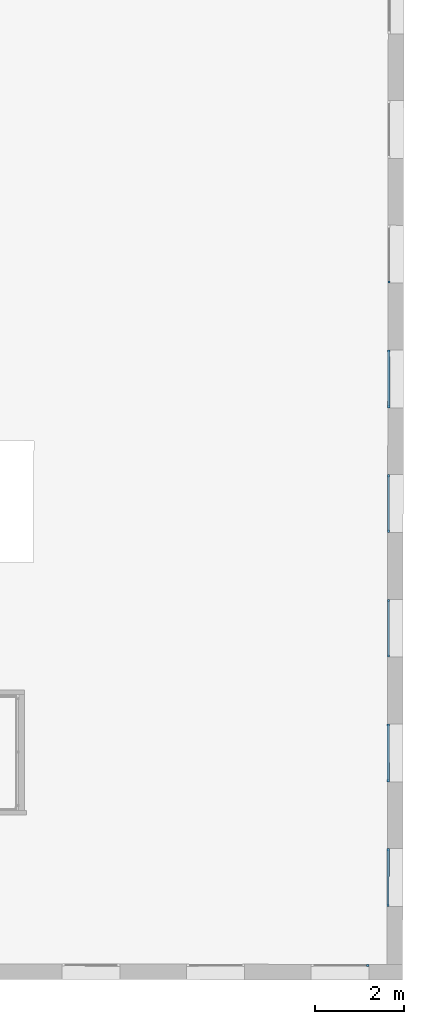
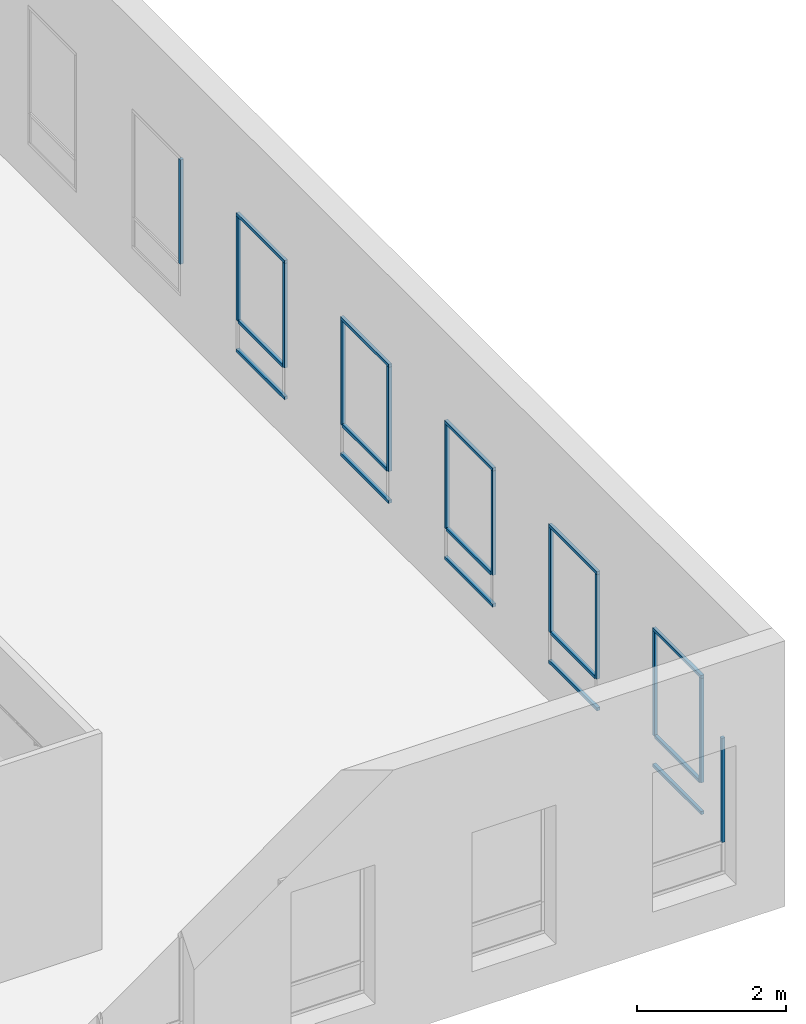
# One storey, part 9 of 35: 27 members, 7 elements without a shape of their own.
"""IFC2X3 building model written with IfcOpenShell, lengths in metres."""

from ifc_helpers import new_model, entity, si_unit, converted_unit, derived_unit, direction, frame, frame_2d, origin, origin_2d_with_axis, place, context, subcontext, project, spatial, rectangle, extrude, source, transform, mapped, material, type_object, type_shapes, element, aggregate, save


model = new_model("IFC2X3")

# Units and contexts
model_context = context("Model", 3, precision=1e-05, world=origin(), true_north=direction((6.123233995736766e-17, 1.0)))
body_context = subcontext(model_context, "Body", "Model", "MODEL_VIEW")
ifc_project = project(units=[si_unit("LENGTHUNIT", "METRE"), si_unit("AREAUNIT", "SQUARE_METRE"), converted_unit("PLANEANGLEUNIT", "DEGREE", entity("IfcPlaneAngleMeasure", 0.017453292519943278), si_unit("PLANEANGLEUNIT", "RADIAN"), dimensions=[0, 0, 0, 0, 0, 0, 0]), derived_unit("THERMALTRANSMITTANCEUNIT", [(si_unit("MASSUNIT", "GRAM", prefix="KILO"), 1), (si_unit("THERMODYNAMICTEMPERATUREUNIT", "KELVIN"), -1), (si_unit("TIMEUNIT", "SECOND"), -3)])], contexts=[model_context])

# Site, building, storey
site_placement = place(None, frame((1253.6752467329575, 2072.143113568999, 91.49999999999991), z_axis=(0.0, 0.0, 1.0), x_axis=(0.7237211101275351, 0.6900925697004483, 0.0)))
site = spatial("IfcSite", under=ifc_project, at=site_placement, Name="Surface", CompositionType="ELEMENT")
building_placement = place(site_placement, origin())
building = spatial("IfcBuilding", under=site, at=building_placement, CompositionType="ELEMENT")
storey_placement = place(building_placement, frame((0.0, 0.0, 3.549999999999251)))
storey = spatial("IfcBuildingStorey", under=building, at=storey_placement, Name="1-R+1", CompositionType="ELEMENT", Elevation=3.549999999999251)

# Curtain wall, member
curtain_wall_type = type_object("IfcCurtainWallType", Name="Mur-rideau:Menuiserie Ext 1F+1OB VERTIC", PredefinedType="NOTDEFINED")
curtain_wall_1_placement = place(storey_placement, frame((0.0, 0.0, -3.549999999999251)))
curtain_wall_1 = element("IfcCurtainWall", 1, at=curtain_wall_1_placement, inside=storey, type_object=curtain_wall_type, Name="Mur-rideau:Menuiserie Ext 1F+1OB VERTIC", ObjectType="Mur-rideau:Menuiserie Ext 1F+1OB VERTIC")
ifc_material = material(Name="OMD_Aluminium Men Ext")
member_type_1 = type_object("IfcMemberType", Name="Meneau rectangulaire:50x50", PredefinedType="MULLION", material=ifc_material)
shared_shape_1 = source(origin(), body_context, "Body", "SweptSolid", [
    extrude(rectangle(XDim=0.05, YDim=0.049999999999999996, at=origin_2d_with_axis()), frame((-0.025, 0.0, -1.2996959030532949), z_axis=(0.0, 0.0, 1.0), x_axis=(-1.0, 0.0, 0.0)), (0.0, 0.0, 1.0), 1.2996959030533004),
])
type_shapes(member_type_1, [shared_shape_1])
member_1_placement = place(curtain_wall_1_placement, frame((188.84198091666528, -19.273710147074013, 6.4499999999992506), z_axis=(0.6909838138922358, 0.7228702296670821, 0.0), x_axis=(0.0, 0.0, 1.0)))
member_1 = element("IfcMember", 2, at=member_1_placement, type_object=member_type_1, material=ifc_material, Name="Meneau rectangulaire:50x50", ObjectType="Meneau rectangulaire:50x50", context=body_context, shape_type="MappedRepresentation", body=[
    mapped(shared_shape_1, transform((0.0, 0.0, 0.0), scale=1.0)),
])

curtain_wall_2_placement = place(storey_placement, frame((0.0, 0.0, -3.549999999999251)))
curtain_wall_2 = element("IfcCurtainWall", 3, at=curtain_wall_2_placement, inside=storey, type_object=curtain_wall_type, Name="Mur-rideau:Menuiserie Ext 1F+1OB VERTIC", ObjectType="Mur-rideau:Menuiserie Ext 1F+1OB VERTIC")
member_2_placement = place(curtain_wall_2_placement, frame((186.90722623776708, -21.29774679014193, 6.4499999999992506), z_axis=(0.690983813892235, 0.7228702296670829, 0.0), x_axis=(0.0, 0.0, 1.0)))
member_2 = element("IfcMember", 4, at=member_2_placement, type_object=member_type_1, material=ifc_material, Name="Meneau rectangulaire:50x50", ObjectType="Meneau rectangulaire:50x50", context=body_context, shape_type="MappedRepresentation", body=[
    mapped(shared_shape_1, transform((0.0, 0.0, 0.0), scale=1.0)),
])

curtain_wall_3_placement = place(storey_placement, frame((0.0, 0.0, -3.549999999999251)))
curtain_wall_3 = element("IfcCurtainWall", 5, at=curtain_wall_3_placement, inside=storey, type_object=curtain_wall_type, Name="Mur-rideau:Menuiserie Ext 1F+1OB VERTIC", ObjectType="Mur-rideau:Menuiserie Ext 1F+1OB VERTIC")
member_3_placement = place(curtain_wall_3_placement, frame((184.97247155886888, -23.321783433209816, 6.4499999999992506), z_axis=(0.690983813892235, 0.7228702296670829, 0.0), x_axis=(0.0, 0.0, 1.0)))
member_3 = element("IfcMember", 6, at=member_3_placement, type_object=member_type_1, material=ifc_material, Name="Meneau rectangulaire:50x50", ObjectType="Meneau rectangulaire:50x50", context=body_context, shape_type="MappedRepresentation", body=[
    mapped(shared_shape_1, transform((0.0, 0.0, 0.0), scale=1.0)),
])

curtain_wall_4_placement = place(storey_placement, frame((0.0, 0.0, -3.549999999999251)))
curtain_wall_4 = element("IfcCurtainWall", 7, at=curtain_wall_4_placement, inside=storey, type_object=curtain_wall_type, Name="Mur-rideau:Menuiserie Ext 1F+1OB VERTIC", ObjectType="Mur-rideau:Menuiserie Ext 1F+1OB VERTIC")
member_4_placement = place(curtain_wall_4_placement, frame((183.03771687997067, -25.34582007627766, 6.4499999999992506), z_axis=(0.690983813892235, 0.7228702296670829, 0.0), x_axis=(0.0, 0.0, 1.0)))
member_4 = element("IfcMember", 8, at=member_4_placement, type_object=member_type_1, material=ifc_material, Name="Meneau rectangulaire:50x50", ObjectType="Meneau rectangulaire:50x50", context=body_context, shape_type="MappedRepresentation", body=[
    mapped(shared_shape_1, transform((0.0, 0.0, 0.0), scale=1.0)),
])

curtain_wall_5_placement = place(storey_placement, frame((0.0, 0.0, -3.549999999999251)))
curtain_wall_5 = element("IfcCurtainWall", 9, at=curtain_wall_5_placement, inside=storey, type_object=curtain_wall_type, Name="Mur-rideau:Menuiserie Ext 1F+1OB VERTIC", ObjectType="Mur-rideau:Menuiserie Ext 1F+1OB VERTIC")
member_5_placement = place(curtain_wall_5_placement, frame((181.10296220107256, -27.369856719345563, 6.4499999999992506), z_axis=(0.690983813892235, 0.7228702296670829, 0.0), x_axis=(0.0, 0.0, 1.0)))
member_5 = element("IfcMember", 10, at=member_5_placement, type_object=member_type_1, material=ifc_material, Name="Meneau rectangulaire:50x50", ObjectType="Meneau rectangulaire:50x50", context=body_context, shape_type="MappedRepresentation", body=[
    mapped(shared_shape_1, transform((0.0, 0.0, 0.0), scale=1.0)),
])

# Member
member_type_2 = type_object("IfcMemberType", Name="Meneau rectangulaire:50x50", PredefinedType="MULLION", material=ifc_material)
shared_shape_2 = source(origin(), body_context, "Body", "SweptSolid", [
    extrude(rectangle(XDim=0.05, YDim=0.05, at=origin_2d_with_axis()), frame((-0.025, 0.0, -1.2996959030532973), z_axis=(0.0, 0.0, 1.0), x_axis=(-1.0, 0.0, 0.0)), (0.0, 0.0, 1.0), 1.2996959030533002),
])
type_shapes(member_type_2, [shared_shape_2])
member_6_placement = place(curtain_wall_1_placement, frame((187.9439120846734, -20.21322162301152, 4.169999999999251), z_axis=(-0.6909838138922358, -0.7228702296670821, 0.0), x_axis=(0.0, 0.0, -1.0)))
member_6 = element("IfcMember", 11, at=member_6_placement, type_object=member_type_2, material=ifc_material, Name="Meneau rectangulaire:50x50", ObjectType="Meneau rectangulaire:50x50", context=body_context, shape_type="MappedRepresentation", body=[
    mapped(shared_shape_2, transform((0.0, 0.0, 0.0), scale=1.0)),
])

member_7_placement = place(curtain_wall_2_placement, frame((186.00915740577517, -22.237258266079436, 4.169999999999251), z_axis=(-0.690983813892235, -0.7228702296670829, 0.0), x_axis=(0.0, 0.0, -1.0)))
member_7 = element("IfcMember", 12, at=member_7_placement, type_object=member_type_2, material=ifc_material, Name="Meneau rectangulaire:50x50", ObjectType="Meneau rectangulaire:50x50", context=body_context, shape_type="MappedRepresentation", body=[
    mapped(shared_shape_2, transform((0.0, 0.0, 0.0), scale=1.0)),
])

member_8_placement = place(curtain_wall_3_placement, frame((184.074402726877, -24.261294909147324, 4.169999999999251), z_axis=(-0.690983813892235, -0.7228702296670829, 0.0), x_axis=(0.0, 0.0, -1.0)))
member_8 = element("IfcMember", 13, at=member_8_placement, type_object=member_type_2, material=ifc_material, Name="Meneau rectangulaire:50x50", ObjectType="Meneau rectangulaire:50x50", context=body_context, shape_type="MappedRepresentation", body=[
    mapped(shared_shape_2, transform((0.0, 0.0, 0.0), scale=1.0)),
])

member_9_placement = place(curtain_wall_4_placement, frame((182.13964804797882, -26.285331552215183, 4.169999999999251), z_axis=(-0.690983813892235, -0.7228702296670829, 0.0), x_axis=(0.0, 0.0, -1.0)))
member_9 = element("IfcMember", 14, at=member_9_placement, type_object=member_type_2, material=ifc_material, Name="Meneau rectangulaire:50x50", ObjectType="Meneau rectangulaire:50x50", context=body_context, shape_type="MappedRepresentation", body=[
    mapped(shared_shape_2, transform((0.0, 0.0, 0.0), scale=1.0)),
])

member_10_placement = place(curtain_wall_5_placement, frame((180.20489336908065, -28.309368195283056, 4.169999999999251), z_axis=(-0.690983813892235, -0.7228702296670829, 0.0), x_axis=(0.0, 0.0, -1.0)))
member_10 = element("IfcMember", 15, at=member_10_placement, type_object=member_type_2, material=ifc_material, Name="Meneau rectangulaire:50x50", ObjectType="Meneau rectangulaire:50x50", context=body_context, shape_type="MappedRepresentation", body=[
    mapped(shared_shape_2, transform((0.0, 0.0, 0.0), scale=1.0)),
])

# Curtain wall, member
curtain_wall_6_placement = place(storey_placement, frame((0.0, 0.0, -3.549999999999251)))
curtain_wall_6 = element("IfcCurtainWall", 16, at=curtain_wall_6_placement, inside=storey, type_object=curtain_wall_type, Name="Mur-rideau:Menuiserie Ext 1F+1OB VERTIC", ObjectType="Mur-rideau:Menuiserie Ext 1F+1OB VERTIC")
member_type_3 = type_object("IfcMemberType", Name="Meneau rectangulaire:50x50", PredefinedType="MULLION", material=ifc_material)
shared_shape_3 = source(origin(), body_context, "Body", "SweptSolid", [
    extrude(rectangle(XDim=0.05, YDim=0.049999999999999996, at=origin_2d_with_axis()), frame((-0.025, 0.0, -1.7099999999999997), z_axis=(0.0, 0.0, 1.0), x_axis=(-1.0, 0.0, 0.0)), (0.0, 0.0, 1.0), 1.7099999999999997),
])
type_shapes(member_type_3, [shared_shape_3])
member_11_placement = place(curtain_wall_6_placement, frame((189.87866676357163, -18.189184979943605, 6.399999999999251), z_axis=(0.0, 0.0, 1.0), x_axis=(-0.6909838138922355, -0.7228702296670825, 0.0)))
member_11 = element("IfcMember", 17, at=member_11_placement, type_object=member_type_3, material=ifc_material, Name="Meneau rectangulaire:50x50", ObjectType="Meneau rectangulaire:50x50", context=body_context, shape_type="MappedRepresentation", body=[
    mapped(shared_shape_3, transform((0.0, 0.0, 0.0), scale=1.0)),
])
aggregate(curtain_wall_6, [member_11])

# Member
member_12_placement = place(curtain_wall_1_placement, frame((187.9439120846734, -20.213221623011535, 6.399999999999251), z_axis=(0.0, 0.0, 1.0), x_axis=(-0.6909838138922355, -0.7228702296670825, 0.0)))
member_12 = element("IfcMember", 18, at=member_12_placement, type_object=member_type_3, material=ifc_material, Name="Meneau rectangulaire:50x50", ObjectType="Meneau rectangulaire:50x50", context=body_context, shape_type="MappedRepresentation", body=[
    mapped(shared_shape_3, transform((0.0, 0.0, 0.0), scale=1.0)),
])

member_13_placement = place(curtain_wall_2_placement, frame((186.00915740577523, -22.237258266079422, 6.399999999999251), z_axis=(0.0, 0.0, 1.0), x_axis=(-0.6909838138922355, -0.7228702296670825, 0.0)))
member_13 = element("IfcMember", 19, at=member_13_placement, type_object=member_type_3, material=ifc_material, Name="Meneau rectangulaire:50x50", ObjectType="Meneau rectangulaire:50x50", context=body_context, shape_type="MappedRepresentation", body=[
    mapped(shared_shape_3, transform((0.0, 0.0, 0.0), scale=1.0)),
])

member_14_placement = place(curtain_wall_3_placement, frame((184.074402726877, -24.26129490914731, 6.399999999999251), z_axis=(0.0, 0.0, 1.0), x_axis=(-0.6909838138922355, -0.7228702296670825, 0.0)))
member_14 = element("IfcMember", 20, at=member_14_placement, type_object=member_type_3, material=ifc_material, Name="Meneau rectangulaire:50x50", ObjectType="Meneau rectangulaire:50x50", context=body_context, shape_type="MappedRepresentation", body=[
    mapped(shared_shape_3, transform((0.0, 0.0, 0.0), scale=1.0)),
])

member_15_placement = place(curtain_wall_4_placement, frame((182.13964804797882, -26.28533155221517, 6.399999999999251), z_axis=(0.0, 0.0, 1.0), x_axis=(-0.6909838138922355, -0.7228702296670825, 0.0)))
member_15 = element("IfcMember", 21, at=member_15_placement, type_object=member_type_3, material=ifc_material, Name="Meneau rectangulaire:50x50", ObjectType="Meneau rectangulaire:50x50", context=body_context, shape_type="MappedRepresentation", body=[
    mapped(shared_shape_3, transform((0.0, 0.0, 0.0), scale=1.0)),
])

member_16_placement = place(curtain_wall_5_placement, frame((180.2048933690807, -28.309368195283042, 6.399999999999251), z_axis=(0.0, 0.0, 1.0), x_axis=(-0.6909838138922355, -0.7228702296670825, 0.0)))
member_16 = element("IfcMember", 22, at=member_16_placement, type_object=member_type_3, material=ifc_material, Name="Meneau rectangulaire:50x50", ObjectType="Meneau rectangulaire:50x50", context=body_context, shape_type="MappedRepresentation", body=[
    mapped(shared_shape_3, transform((0.0, 0.0, 0.0), scale=1.0)),
])

# Curtain wall, member
curtain_wall_7_placement = place(storey_placement, frame((0.0, 0.0, -3.549999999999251)))
curtain_wall_7 = element("IfcCurtainWall", 23, at=curtain_wall_7_placement, inside=storey, type_object=curtain_wall_type, Name="Mur-rideau:Menuiserie Ext 1F+1OB VERTIC", ObjectType="Mur-rideau:Menuiserie Ext 1F+1OB VERTIC")
member_17_placement = place(curtain_wall_7_placement, frame((178.97891988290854, -28.970864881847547, 6.399999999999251), z_axis=(0.0, 0.0, 1.0), x_axis=(0.7228702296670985, -0.6909838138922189, 0.0)))
member_17 = element("IfcMember", 24, at=member_17_placement, type_object=member_type_3, material=ifc_material, Name="Meneau rectangulaire:50x50", ObjectType="Meneau rectangulaire:50x50", context=body_context, shape_type="MappedRepresentation", body=[
    mapped(shared_shape_3, transform((0.0, 0.0, 0.0), scale=1.0)),
])
aggregate(curtain_wall_7, [member_17])

# Member
member_type_4 = type_object("IfcMemberType", Name="Meneau rectangulaire:50x50", PredefinedType="MULLION", material=ifc_material)
shared_shape_4 = source(origin(), body_context, "Body", "SweptSolid", [
    extrude(rectangle(XDim=0.05, YDim=0.049999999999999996, at=origin_2d_with_axis()), frame((-0.025, 0.0, -1.7099999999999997), z_axis=(0.0, 0.0, 1.0), x_axis=(-1.0, 0.0, 0.0)), (0.0, 0.0, 1.0), 1.7099999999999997),
])
type_shapes(member_type_4, [shared_shape_4])
member_18_placement = place(curtain_wall_1_placement, frame((188.84198091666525, -19.273710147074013, 4.689999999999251), z_axis=(0.0, 0.0, -1.0), x_axis=(0.6909838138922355, 0.7228702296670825, 0.0)))
member_18 = element("IfcMember", 25, at=member_18_placement, type_object=member_type_4, material=ifc_material, Name="Meneau rectangulaire:50x50", ObjectType="Meneau rectangulaire:50x50", context=body_context, shape_type="MappedRepresentation", body=[
    mapped(shared_shape_4, transform((0.0, 0.0, 0.0), scale=1.0)),
])

member_19_placement = place(curtain_wall_2_placement, frame((186.90722623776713, -21.29774679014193, 4.689999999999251), z_axis=(0.0, 0.0, -1.0), x_axis=(0.6909838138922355, 0.7228702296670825, 0.0)))
member_19 = element("IfcMember", 26, at=member_19_placement, type_object=member_type_4, material=ifc_material, Name="Meneau rectangulaire:50x50", ObjectType="Meneau rectangulaire:50x50", context=body_context, shape_type="MappedRepresentation", body=[
    mapped(shared_shape_4, transform((0.0, 0.0, 0.0), scale=1.0)),
])

member_20_placement = place(curtain_wall_3_placement, frame((184.9724715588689, -23.32178343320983, 4.689999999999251), z_axis=(0.0, 0.0, -1.0), x_axis=(0.6909838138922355, 0.7228702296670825, 0.0)))
member_20 = element("IfcMember", 27, at=member_20_placement, type_object=member_type_4, material=ifc_material, Name="Meneau rectangulaire:50x50", ObjectType="Meneau rectangulaire:50x50", context=body_context, shape_type="MappedRepresentation", body=[
    mapped(shared_shape_4, transform((0.0, 0.0, 0.0), scale=1.0)),
])

member_21_placement = place(curtain_wall_4_placement, frame((183.03771687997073, -25.34582007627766, 4.689999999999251), z_axis=(0.0, 0.0, -1.0), x_axis=(0.6909838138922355, 0.7228702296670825, 0.0)))
member_21 = element("IfcMember", 28, at=member_21_placement, type_object=member_type_4, material=ifc_material, Name="Meneau rectangulaire:50x50", ObjectType="Meneau rectangulaire:50x50", context=body_context, shape_type="MappedRepresentation", body=[
    mapped(shared_shape_4, transform((0.0, 0.0, 0.0), scale=1.0)),
])

member_22_placement = place(curtain_wall_5_placement, frame((181.1029622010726, -27.36985671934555, 4.689999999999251), z_axis=(0.0, 0.0, -1.0), x_axis=(0.6909838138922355, 0.7228702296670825, 0.0)))
member_22 = element("IfcMember", 29, at=member_22_placement, type_object=member_type_4, material=ifc_material, Name="Meneau rectangulaire:50x50", ObjectType="Meneau rectangulaire:50x50", context=body_context, shape_type="MappedRepresentation", body=[
    mapped(shared_shape_4, transform((0.0, 0.0, 0.0), scale=1.0)),
])

member_type_5 = type_object("IfcMemberType", Name="Meneau rectangulaire:50x50", PredefinedType="MULLION", material=ifc_material)
shared_shape_5 = source(origin(), body_context, "Body", "SweptSolid", [
    extrude(rectangle(XDim=0.05, YDim=0.05, at=frame_2d((0.0, -1.734723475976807e-18), x_axis=(1.0, 0.0))), frame((0.0, 0.0, -1.1996959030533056), z_axis=(0.0, 0.0, 1.0), x_axis=(-1.0, 0.0, 0.0)), (0.0, 0.0, 1.0), 1.1996959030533),
])
type_shapes(member_type_5, [shared_shape_5])
member_23_placement = place(curtain_wall_1_placement, frame((188.80743172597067, -19.309853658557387, 4.689999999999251), z_axis=(0.6909838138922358, 0.7228702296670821, 0.0), x_axis=(0.0, 0.0, 1.0)))
member_23 = element("IfcMember", 30, at=member_23_placement, type_object=member_type_5, material=ifc_material, Name="Meneau rectangulaire:50x50", ObjectType="Meneau rectangulaire:50x50", context=body_context, shape_type="MappedRepresentation", body=[
    mapped(shared_shape_5, transform((0.0, 0.0, 0.0), scale=1.0)),
])

aggregate(curtain_wall_1, [member_1, member_6, member_12, member_18, member_23])

member_24_placement = place(curtain_wall_2_placement, frame((186.87267704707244, -21.333890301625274, 4.689999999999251), z_axis=(0.690983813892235, 0.7228702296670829, 0.0), x_axis=(0.0, 0.0, 1.0)))
member_24 = element("IfcMember", 31, at=member_24_placement, type_object=member_type_5, material=ifc_material, Name="Meneau rectangulaire:50x50", ObjectType="Meneau rectangulaire:50x50", context=body_context, shape_type="MappedRepresentation", body=[
    mapped(shared_shape_5, transform((0.0, 0.0, 0.0), scale=1.0)),
])

aggregate(curtain_wall_2, [member_2, member_7, member_13, member_19, member_24])

member_25_placement = place(curtain_wall_3_placement, frame((184.93792236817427, -23.357926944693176, 4.689999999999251), z_axis=(0.690983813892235, 0.7228702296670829, 0.0), x_axis=(0.0, 0.0, 1.0)))
member_25 = element("IfcMember", 32, at=member_25_placement, type_object=member_type_5, material=ifc_material, Name="Meneau rectangulaire:50x50", ObjectType="Meneau rectangulaire:50x50", context=body_context, shape_type="MappedRepresentation", body=[
    mapped(shared_shape_5, transform((0.0, 0.0, 0.0), scale=1.0)),
])

aggregate(curtain_wall_3, [member_3, member_8, member_14, member_20, member_25])

member_26_placement = place(curtain_wall_4_placement, frame((183.0031676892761, -25.38196358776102, 4.689999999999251), z_axis=(0.690983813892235, 0.7228702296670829, 0.0), x_axis=(0.0, 0.0, 1.0)))
member_26 = element("IfcMember", 33, at=member_26_placement, type_object=member_type_5, material=ifc_material, Name="Meneau rectangulaire:50x50", ObjectType="Meneau rectangulaire:50x50", context=body_context, shape_type="MappedRepresentation", body=[
    mapped(shared_shape_5, transform((0.0, 0.0, 0.0), scale=1.0)),
])

aggregate(curtain_wall_4, [member_4, member_9, member_15, member_21, member_26])

member_27_placement = place(curtain_wall_5_placement, frame((181.06841301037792, -27.40600023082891, 4.689999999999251), z_axis=(0.690983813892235, 0.7228702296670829, 0.0), x_axis=(0.0, 0.0, 1.0)))
member_27 = element("IfcMember", 34, at=member_27_placement, type_object=member_type_5, material=ifc_material, Name="Meneau rectangulaire:50x50", ObjectType="Meneau rectangulaire:50x50", context=body_context, shape_type="MappedRepresentation", body=[
    mapped(shared_shape_5, transform((0.0, 0.0, 0.0), scale=1.0)),
])

aggregate(curtain_wall_5, [member_5, member_10, member_16, member_22, member_27])

save(model, "model.ifc")
